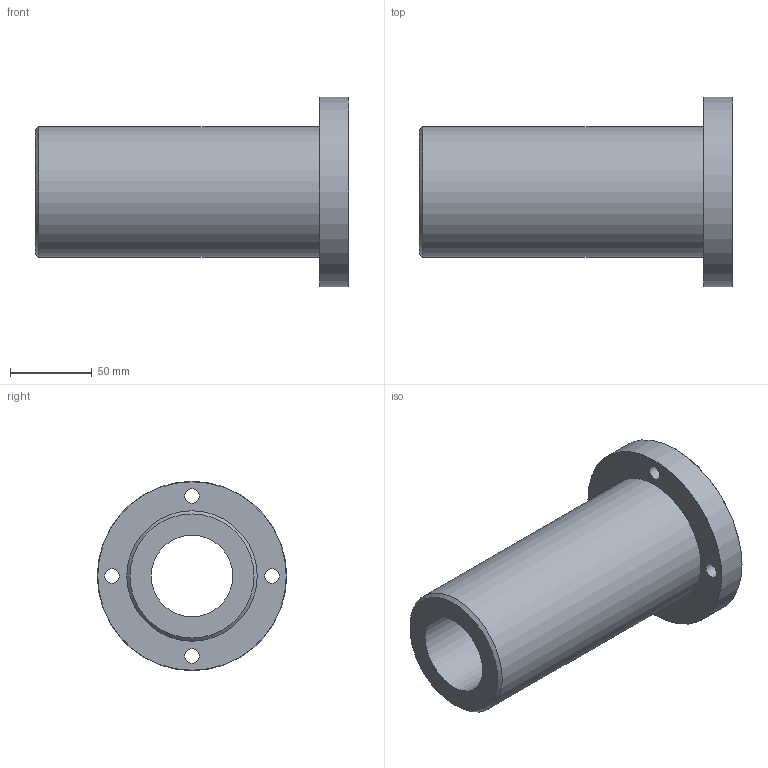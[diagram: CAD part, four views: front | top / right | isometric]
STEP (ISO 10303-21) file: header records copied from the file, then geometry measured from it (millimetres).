
FILE_DESCRIPTION(('STEP AP203'),'1');
FILE_NAME('//192.168.1.1/share/s-4 技術開発/s-4-4_CAD/s-4-4-3_見直し済み/PBC LINEAR修正済み/DFPJ/DFPJ_TOP/DFPJR/DFPJR50.step','2022-03-24T05:34:08',(' '),(' '),'Spatial InterOp 3D',' ',' ');
FILE_SCHEMA(('CONFIG_CONTROL_DESIGN'));
Length unit declared in the file: millimetre
Products named in the file (1): 1
Bounding box: 192 x 116 x 116 mm (x, y, z)
Volume: 679833.4 mm3; surface area: 99287 mm2
Topology: 1 solids, 1 shells, 21 faces, 44 edges, 30 vertices
Faces by surface type: cylinder 11, plane 7, cone 3
Full cylindrical faces by diameter (mm): 9 x4, 14 x4, 50 x1, 80 x1, 116 x1
Entity records: 528 total; most frequent: DIRECTION 94, CARTESIAN_POINT 72, EDGE_LOOP 50, ORIENTED_EDGE 50, AXIS2_PLACEMENT_3D 47, FACE_OUTER_BOUND 32, EDGE_CURVE 25, VERTEX_POINT 25
